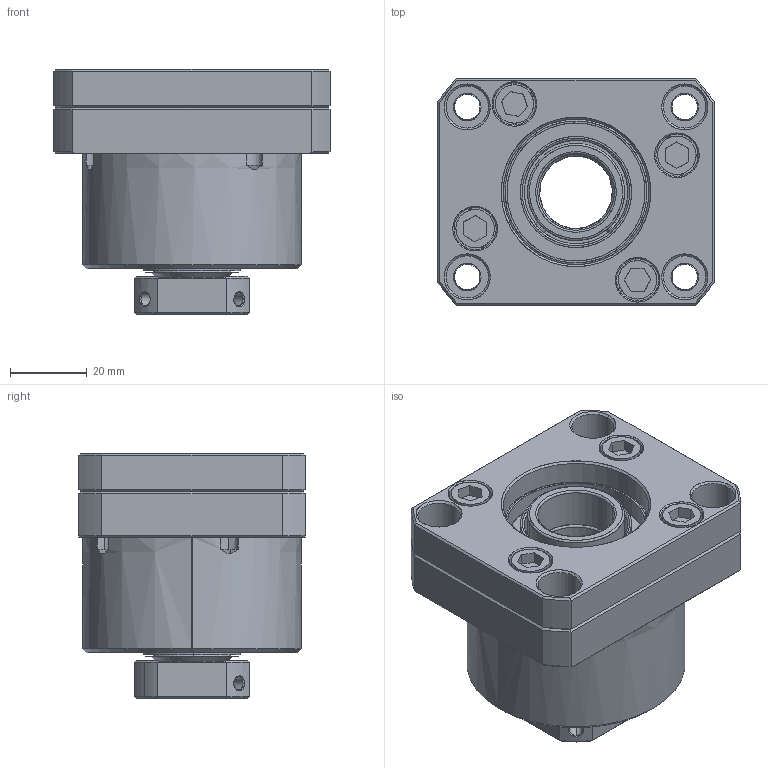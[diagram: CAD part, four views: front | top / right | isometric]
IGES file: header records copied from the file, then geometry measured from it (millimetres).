
Start section: SolidWorks IGES file using analytic representation for surfaces
Bounding box: 72 x 59 x 64 mm (x, y, z)
Surface area: 35118.7 mm2 (no closed solid volume)
Topology: 0 solids, 0 shells, 248 faces, 3082 edges, 3082 vertices
Faces by surface type: revolution 147, bspline 101
